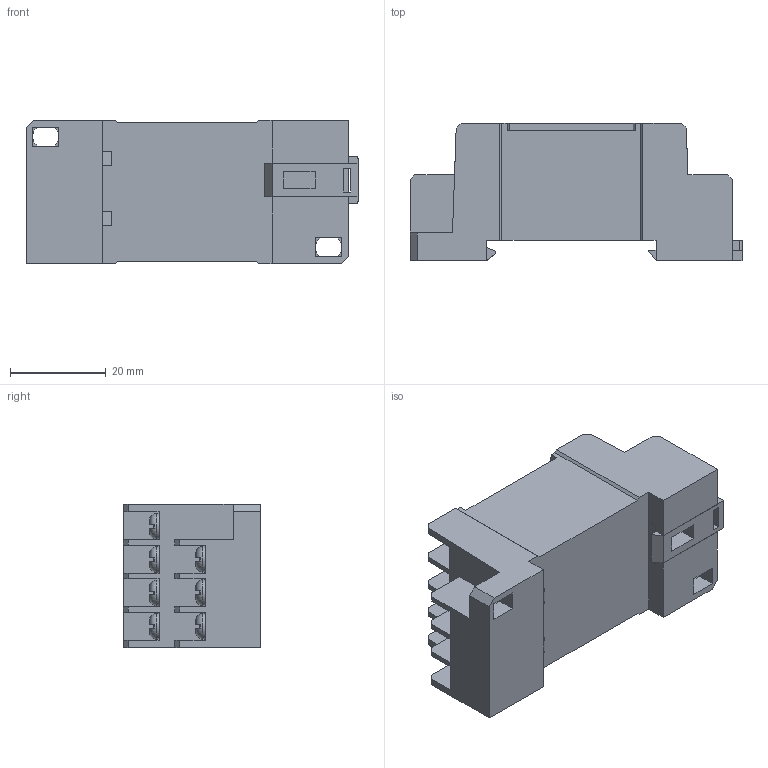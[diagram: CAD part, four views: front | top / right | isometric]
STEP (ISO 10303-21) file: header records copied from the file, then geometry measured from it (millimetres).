
FILE_DESCRIPTION (( 'STEP AP203' ), '1' );
FILE_NAME ('Ðîçåòêà äëÿ RI-54 ENGARD.STEP', '2021-12-09T11:08:48', ( '' ), ( '' ), 'SwSTEP 2.0', 'SolidWorks 2017', '' );
FILE_SCHEMA (( 'CONFIG_CONTROL_DESIGN' ));
Length unit declared in the file: millimetre
Products named in the file (1): Ðîçåòêà äëÿ RI-54 ENGARD
Bounding box: 69.5 x 28.8 x 30 mm (x, y, z)
Volume: 39387.4 mm3; surface area: 15640.6 mm2
Topology: 30 solids, 30 shells, 695 faces, 1822 edges, 1202 vertices
Faces by surface type: plane 603, cylinder 64, torus 28
Entity records: 21767 total; most frequent: CARTESIAN_POINT 4700, ORIENTED_EDGE 3644, DIRECTION 3234, EDGE_CURVE 1822, LINE 1410, VECTOR 1410, VERTEX_POINT 1202, AXIS2_PLACEMENT_3D 912
